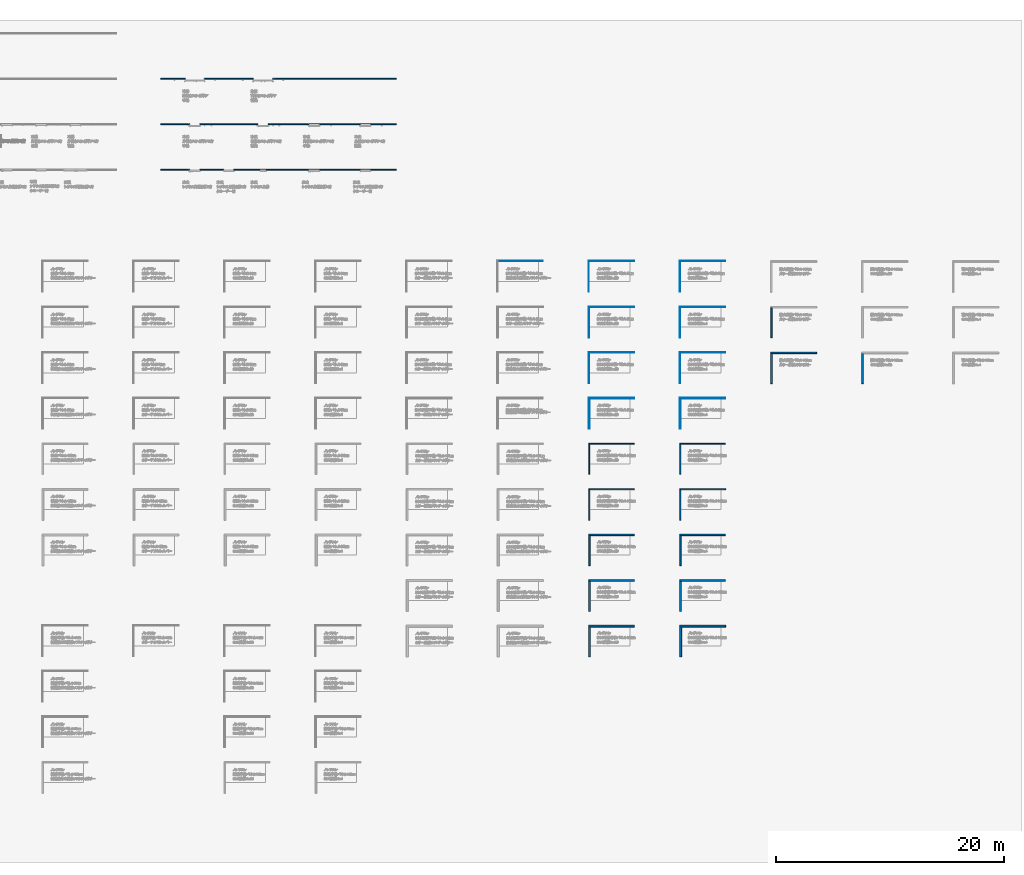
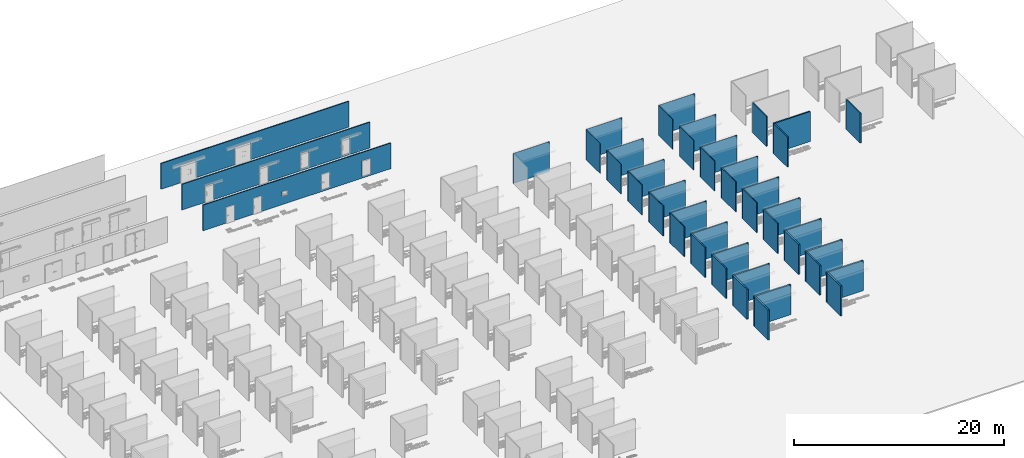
# One storey, part 4 of 16: 44 walls, 11 openings.
"""IFC2X3 building model written with IfcOpenShell, lengths in millimetres."""

from ifc_helpers import new_model, entity, si_unit, converted_unit, derived_unit, direction, frame, frame_2d, origin, place, context, subcontext, project, spatial, rectangle, extrude, material, layer, layer_set, layer_usage, type_object, element, save


model = new_model("IFC2X3")

# Units and contexts
model_context = context("Model", 3, precision=0.01, world=origin(), true_north=direction((6.123031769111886e-17, 1.0)))
body_context = subcontext(model_context, "Body", "Model", "MODEL_VIEW")
ifc_project = project(units=[si_unit("LENGTHUNIT", "METRE", prefix="MILLI"), si_unit("AREAUNIT", "SQUARE_METRE"), si_unit("VOLUMEUNIT", "CUBIC_METRE"), converted_unit("PLANEANGLEUNIT", "DEGREE", entity("IfcRatioMeasure", 0.017453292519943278), si_unit("PLANEANGLEUNIT", "RADIAN"), dimensions=[0, 0, 0, 0, 0, 0, 0]), si_unit("MASSUNIT", "GRAM", prefix="KILO"), derived_unit("MASSDENSITYUNIT", [(si_unit("MASSUNIT", "GRAM", prefix="KILO"), 1), (si_unit("LENGTHUNIT", "METRE"), -3)]), derived_unit("IONCONCENTRATIONUNIT", [(si_unit("MASSUNIT", "GRAM", prefix="KILO"), 1), (si_unit("LENGTHUNIT", "METRE"), -3)]), derived_unit("MOMENTOFINERTIAUNIT", [(si_unit("LENGTHUNIT", "METRE"), 4)]), si_unit("TIMEUNIT", "SECOND"), si_unit("FREQUENCYUNIT", "HERTZ"), si_unit("THERMODYNAMICTEMPERATUREUNIT", "DEGREE_CELSIUS"), derived_unit("THERMALTRANSMITTANCEUNIT", [(si_unit("MASSUNIT", "GRAM", prefix="KILO"), 1), (si_unit("THERMODYNAMICTEMPERATUREUNIT", "KELVIN"), -1), (si_unit("TIMEUNIT", "SECOND"), -3)]), derived_unit("THERMALCONDUCTANCEUNIT", [(si_unit("MASSUNIT", "GRAM", prefix="KILO"), 1), (si_unit("THERMODYNAMICTEMPERATUREUNIT", "KELVIN"), -1), (si_unit("TIMEUNIT", "SECOND"), -3), (si_unit("LENGTHUNIT", "METRE"), 1)]), derived_unit("VOLUMETRICFLOWRATEUNIT", [(si_unit("LENGTHUNIT", "METRE"), 3), (si_unit("TIMEUNIT", "SECOND"), -1)]), derived_unit("MASSFLOWRATEUNIT", [(si_unit("MASSUNIT", "GRAM", prefix="KILO"), 1), (si_unit("TIMEUNIT", "SECOND"), -1)]), derived_unit("ROTATIONALFREQUENCYUNIT", [(si_unit("TIMEUNIT", "SECOND"), -1)]), si_unit("ELECTRICCURRENTUNIT", "AMPERE"), si_unit("ELECTRICVOLTAGEUNIT", "VOLT"), si_unit("POWERUNIT", "WATT"), si_unit("FORCEUNIT", "NEWTON", prefix="KILO"), si_unit("ILLUMINANCEUNIT", "LUX"), si_unit("LUMINOUSFLUXUNIT", "LUMEN"), si_unit("LUMINOUSINTENSITYUNIT", "CANDELA"), derived_unit("USERDEFINED", [(si_unit("MASSUNIT", "GRAM", prefix="KILO"), -1), (si_unit("LENGTHUNIT", "METRE"), -2), (si_unit("TIMEUNIT", "SECOND"), 3), (si_unit("LUMINOUSFLUXUNIT", "LUMEN"), 1)]), derived_unit("USERDEFINED", [(si_unit("MASSUNIT", "GRAM", prefix="KILO"), 1), (si_unit("TIMEUNIT", "SECOND"), -3), (si_unit("LENGTHUNIT", "METRE"), 3), (si_unit("ELECTRICCURRENTUNIT", "AMPERE"), -2)]), derived_unit("SOUNDPOWERUNIT", [(si_unit("MASSUNIT", "GRAM", prefix="KILO"), 1), (si_unit("TIMEUNIT", "SECOND"), -3), (si_unit("LENGTHUNIT", "METRE"), 2)]), derived_unit("SOUNDPRESSUREUNIT", [(si_unit("MASSUNIT", "GRAM", prefix="KILO"), 1), (si_unit("LENGTHUNIT", "METRE"), -1), (si_unit("TIMEUNIT", "SECOND"), -2)]), derived_unit("LINEARVELOCITYUNIT", [(si_unit("LENGTHUNIT", "METRE"), 1), (si_unit("TIMEUNIT", "SECOND"), -1)]), si_unit("PRESSUREUNIT", "PASCAL"), derived_unit("USERDEFINED", [(si_unit("MASSUNIT", "GRAM", prefix="KILO"), 1), (si_unit("LENGTHUNIT", "METRE"), -2), (si_unit("TIMEUNIT", "SECOND"), -2)]), derived_unit("LINEARFORCEUNIT", [(si_unit("MASSUNIT", "GRAM", prefix="KILO"), 1), (si_unit("TIMEUNIT", "SECOND"), -2)]), derived_unit("PLANARFORCEUNIT", [(si_unit("MASSUNIT", "GRAM", prefix="KILO"), 1), (si_unit("LENGTHUNIT", "METRE"), -1), (si_unit("TIMEUNIT", "SECOND"), -2)]), derived_unit("SPECIFICHEATCAPACITYUNIT", [(si_unit("THERMODYNAMICTEMPERATUREUNIT", "KELVIN"), -1), (si_unit("LENGTHUNIT", "METRE"), 2), (si_unit("TIMEUNIT", "SECOND"), -2)]), derived_unit("HEATINGVALUEUNIT", [(si_unit("LENGTHUNIT", "METRE"), 2), (si_unit("TIMEUNIT", "SECOND"), -2)]), derived_unit("VAPORPERMEABILITYUNIT", [(si_unit("LENGTHUNIT", "METRE"), -1), (si_unit("TIMEUNIT", "SECOND"), 1)]), derived_unit("DYNAMICVISCOSITYUNIT", [(si_unit("MASSUNIT", "GRAM", prefix="KILO"), 1), (si_unit("TIMEUNIT", "SECOND"), -1), (si_unit("LENGTHUNIT", "METRE"), -1)]), derived_unit("THERMALEXPANSIONCOEFFICIENTUNIT", [(si_unit("THERMODYNAMICTEMPERATUREUNIT", "KELVIN"), -1)]), derived_unit("MODULUSOFELASTICITYUNIT", [(si_unit("MASSUNIT", "GRAM", prefix="KILO"), 1), (si_unit("LENGTHUNIT", "METRE"), -1), (si_unit("TIMEUNIT", "SECOND"), -2)]), derived_unit("ISOTHERMALMOISTURECAPACITYUNIT", [(si_unit("LENGTHUNIT", "METRE"), 3), (si_unit("MASSUNIT", "GRAM", prefix="KILO"), -1)]), derived_unit("MOISTUREDIFFUSIVITYUNIT", [(si_unit("TIMEUNIT", "SECOND"), -1), (si_unit("LENGTHUNIT", "METRE"), 2)])], contexts=[model_context])

# Site, building, storey
site_placement = place(None, origin())
site = spatial("IfcSite", under=ifc_project, at=site_placement, Name="Default", CompositionType="ELEMENT")
building_placement = place(site_placement, origin())
building = spatial("IfcBuilding", under=site, at=building_placement, CompositionType="ELEMENT")
storey_placement = place(building_placement, frame((0.0, 0.0, 500.0)))
storey = spatial("IfcBuildingStorey", under=building, at=storey_placement, Name="レベル 1", CompositionType="ELEMENT", Elevation=500.00000000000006)

# Wall, openings
ifc_material_1 = material(Name="g-p_硬質イソシアヌレートフォーム")
ifc_layer_1 = layer(ifc_material_1, 100.0)
ifc_layer_set_1 = layer_set([ifc_layer_1], Name="標準壁:g-p_不燃断熱パネル(フラット)t100")
ifc_layer_usage_1 = layer_usage(ifc_layer_set_1, "AXIS2", "NEGATIVE", 49.99999999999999)
wall_type_1 = type_object("IfcWallType", Name="標準壁:g-p_不燃断熱パネル(フラット)t100", PredefinedType="STANDARD", material=ifc_layer_set_1)
wall_1_placement = place(storey_placement, frame((2400.0, 20000.0, 0.0)))
wall_1 = element("IfcWallStandardCase", 1, at=wall_1_placement, inside=storey, type_object=wall_type_1, material=ifc_layer_usage_1, Name="標準壁:g-p_不燃断熱パネル(フラット)t100", ObjectType="標準壁:g-p_不燃断熱パネル(フラット)t100", context=body_context, shape_type="SweptSolid", body=[
    extrude(rectangle(XDim=20700.000000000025, YDim=100.00000000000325, at=frame_2d((10350.000000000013, 7.247535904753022e-13), x_axis=(-1.0, 0.0))), origin(), (0.0, 0.0, 1.0), 3000.000000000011),
])
opening_1_placement = place(wall_1_placement, frame((3451.00103000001, 50.0, 0.0)))
element("IfcOpeningElement", 2, at=opening_1_placement, cuts=wall_1, Name="冷凍_シリウス片開き扉3方:W870xH1855xt100:1", ObjectType="Opening", context=body_context, shape_type="SweptSolid", body=[
    extrude(rectangle(XDim=1871.0010299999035, YDim=902.0020599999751, at=frame_2d((935.5005149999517, 451.00102999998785), x_axis=(-1.0, 0.0))), frame((0.0, 0.0, 0.0), z_axis=(0.0, -1.0, 0.0), x_axis=(0.0, 0.0, 1.0)), (0.0, 0.0, 1.0), 99.99999999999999),
])
opening_2_placement = place(wall_1_placement, frame((6451.001030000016, 50.0, 0.0)))
element("IfcOpeningElement", 3, at=opening_2_placement, cuts=wall_1, Name="冷凍_シリウス片開き扉3方_クローザー付:W870xH1855xt100:1", ObjectType="Opening", context=body_context, shape_type="SweptSolid", body=[
    extrude(rectangle(XDim=1871.0010299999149, YDim=902.0020599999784, at=frame_2d((935.5005149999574, 451.0010299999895), x_axis=(-1.0, 0.0))), frame((0.0, 0.0, 0.0), z_axis=(0.0, -1.0, 0.0), x_axis=(0.0, 0.0, 1.0)), (0.0, 0.0, 1.0), 99.99999999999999),
])
opening_3_placement = place(wall_1_placement, frame((9266.001030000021, 50.0, 984.0)))
element("IfcOpeningElement", 4, at=opening_3_placement, cuts=wall_1, Name="冷凍_シリウス小扉:W500xH500xt100:1", ObjectType="Opening", context=body_context, shape_type="SweptSolid", body=[
    extrude(rectangle(XDim=532.0010299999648, YDim=532.0020599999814, at=frame_2d((266.00051499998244, 266.00102999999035), x_axis=(-1.0, 0.0))), frame((0.0, 0.0, 0.0), z_axis=(0.0, -1.0, 0.0), x_axis=(0.0, 0.0, 1.0)), (0.0, 0.0, 1.0), 99.99999999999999),
])
opening_4_placement = place(wall_1_placement, frame((18451.001030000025, 50.0, 184.0)))
element("IfcOpeningElement", 5, at=opening_4_placement, cuts=wall_1, Name="冷凍_シリウス片開き扉4方_クローザー付:W870xH1800xt100:1", ObjectType="Opening", context=body_context, shape_type="SweptSolid", body=[
    extrude(rectangle(XDim=1832.001030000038, YDim=902.0020599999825, at=frame_2d((916.000515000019, 451.00102999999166), x_axis=(-1.0, 0.0))), frame((0.0, 0.0, 0.0), z_axis=(0.0, -1.0, 0.0), x_axis=(0.0, 0.0, 1.0)), (0.0, 0.0, 1.0), 99.99999999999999),
])
opening_5_placement = place(wall_1_placement, frame((13951.001030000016, 50.0, 184.0)))
element("IfcOpeningElement", 6, at=opening_5_placement, cuts=wall_1, Name="冷凍_シリウス片開き扉4方:W870xH1800xt100:1", ObjectType="Opening", context=body_context, shape_type="SweptSolid", body=[
    extrude(rectangle(XDim=1832.00102999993, YDim=902.0020599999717, at=frame_2d((916.0005149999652, 451.0010299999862), x_axis=(-1.0, 0.0))), frame((0.0, 0.0, 0.0), z_axis=(0.0, -1.0, 0.0), x_axis=(0.0, 0.0, 1.0)), (0.0, 0.0, 1.0), 99.99999999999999),
])

wall_2_placement = place(storey_placement, frame((2400.0, 24000.0, 0.0)))
wall_2 = element("IfcWallStandardCase", 7, at=wall_2_placement, inside=storey, type_object=wall_type_1, material=ifc_layer_usage_1, Name="標準壁:g-p_不燃断熱パネル(フラット)t100", ObjectType="標準壁:g-p_不燃断熱パネル(フラット)t100", context=body_context, shape_type="SweptSolid", body=[
    extrude(rectangle(XDim=20700.00000000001, YDim=100.00000000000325, at=frame_2d((10350.000000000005, 7.247535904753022e-13), x_axis=(-1.0, 0.0))), origin(), (0.0, 0.0, 1.0), 3000.000000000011),
])
opening_6_placement = place(wall_2_placement, frame((3451.00103000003, 50.0, 0.0)))
element("IfcOpeningElement", 8, at=opening_6_placement, cuts=wall_2, Name="冷凍_片引きスライドドア3方_手動:W870xH1905xt100:1", ObjectType="Opening", context=body_context, shape_type="SweptSolid", body=[
    extrude(rectangle(XDim=1921.001029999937, YDim=902.0020599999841, at=frame_2d((960.5005149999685, 451.00102999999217), x_axis=(-1.0, 0.0))), frame((0.0, 0.0, 0.0), z_axis=(0.0, -1.0, 0.0), x_axis=(0.0, 0.0, 1.0)), (0.0, 0.0, 1.0), 99.99999999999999),
])
opening_7_placement = place(wall_2_placement, frame((9451.001030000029, 50.0, 0.0)))
element("IfcOpeningElement", 9, at=opening_7_placement, cuts=wall_2, Name="冷凍_片引きスライドドア3方_電動:W870xH1905xt100:1", ObjectType="Opening", context=body_context, shape_type="SweptSolid", body=[
    extrude(rectangle(XDim=1921.0010299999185, YDim=902.0020599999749, at=frame_2d((960.5005149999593, 451.0010299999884), x_axis=(-1.0, 0.0))), frame((0.0, 0.0, 0.0), z_axis=(0.0, -1.0, 0.0), x_axis=(0.0, 0.0, 1.0)), (0.0, 0.0, 1.0), 99.99999999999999),
])
opening_8_placement = place(wall_2_placement, frame((18451.00103000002, 50.0, 184.0)))
element("IfcOpeningElement", 10, at=opening_8_placement, cuts=wall_2, Name="冷凍_片引きスライドドア4方_電動:W870xH1800xt100:1", ObjectType="Opening", context=body_context, shape_type="SweptSolid", body=[
    extrude(rectangle(XDim=1832.0010299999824, YDim=902.0020599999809, at=frame_2d((916.0005149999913, 451.0010299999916), x_axis=(-1.0, 0.0))), frame((0.0, 0.0, 0.0), z_axis=(0.0, -1.0, 0.0), x_axis=(0.0, 0.0, 1.0)), (0.0, 0.0, 1.0), 99.99999999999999),
])
opening_9_placement = place(wall_2_placement, frame((13951.001030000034, 50.0, 184.0)))
element("IfcOpeningElement", 11, at=opening_9_placement, cuts=wall_2, Name="冷凍_片引きスライドドア4方_手動:W870xH1800xt100:1", ObjectType="Opening", context=body_context, shape_type="SweptSolid", body=[
    extrude(rectangle(XDim=1832.0010300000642, YDim=902.0020599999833, at=frame_2d((916.0005150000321, 451.00102999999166), x_axis=(-1.0, 0.0))), frame((0.0, 0.0, 0.0), z_axis=(0.0, -1.0, 0.0), x_axis=(0.0, 0.0, 1.0)), (0.0, 0.0, 1.0), 99.99999999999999),
])

wall_3_placement = place(storey_placement, frame((2400.0, 28000.0, 0.0)))
wall_3 = element("IfcWallStandardCase", 12, at=wall_3_placement, inside=storey, type_object=wall_type_1, material=ifc_layer_usage_1, Name="標準壁:g-p_不燃断熱パネル(フラット)t100", ObjectType="標準壁:g-p_不燃断熱パネル(フラット)t100", context=body_context, shape_type="SweptSolid", body=[
    extrude(rectangle(XDim=20700.000000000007, YDim=100.00000000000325, at=frame_2d((10350.000000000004, 7.247535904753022e-13), x_axis=(-1.0, 0.0))), origin(), (0.0, 0.0, 1.0), 3000.000000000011),
])
opening_10_placement = place(wall_3_placement, frame((3851.5010300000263, 50.0, 0.0)))
element("IfcOpeningElement", 13, at=opening_10_placement, cuts=wall_3, Name="冷凍_両引きスライドドア_手動:W1671xH2000xt100:1", ObjectType="Opening", context=body_context, shape_type="SweptSolid", body=[
    extrude(rectangle(XDim=2016.00102999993, YDim=1703.0020599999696, at=frame_2d((1008.0005149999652, 851.5010299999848), x_axis=(-1.0, 0.0))), frame((0.0, 0.0, 0.0), z_axis=(0.0, -1.0, 0.0), x_axis=(0.0, 0.0, 1.0)), (0.0, 0.0, 1.0), 99.99999999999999),
])
opening_11_placement = place(wall_3_placement, frame((9851.501030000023, 50.0, 0.0)))
element("IfcOpeningElement", 14, at=opening_11_placement, cuts=wall_3, Name="冷凍_両引きスライドドア_電動:W1671xH2000xt100:1", ObjectType="Opening", context=body_context, shape_type="SweptSolid", body=[
    extrude(rectangle(XDim=2016.0010299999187, YDim=1703.0020599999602, at=frame_2d((1008.0005149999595, 851.5010299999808), x_axis=(-1.0, 0.0))), frame((0.0, 0.0, 0.0), z_axis=(0.0, -1.0, 0.0), x_axis=(0.0, 0.0, 1.0)), (0.0, 0.0, 1.0), 99.99999999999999),
])

# Walls
ifc_material_2 = material(Name="g-p_フェノールフォーム")
ifc_layer_2 = layer(ifc_material_2, 37.0)
ifc_layer_set_2 = layer_set([ifc_layer_2], Name="標準壁:g-p_ECO不燃断熱パネル(フラット)t37")
ifc_layer_usage_2 = layer_usage(ifc_layer_set_2, "AXIS2", "NEGATIVE", 18.5)
wall_type_2 = type_object("IfcWallType", Name="標準壁:g-p_ECO不燃断熱パネル(フラット)t37", PredefinedType="STANDARD", material=ifc_layer_set_2)
wall_4_placement = place(storey_placement, frame((32000.0, 11981.499999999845, 0.0)))
element("IfcWallStandardCase", 15, at=wall_4_placement, inside=storey, type_object=wall_type_2, material=ifc_layer_usage_2, Name="標準壁:g-p_ECO不燃断熱パネル(フラット)t37", ObjectType="標準壁:g-p_ECO不燃断熱パネル(フラット)t37", context=body_context, shape_type="SweptSolid", body=[
    extrude(rectangle(XDim=3996.499999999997, YDim=37.00000000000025, at=frame_2d((1998.2499999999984, -5.329070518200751e-15), x_axis=(-1.0, 0.0))), origin(), (0.0, 0.0, 1.0), 3500.0000000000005),
])
wall_5_placement = place(storey_placement, frame((40000.0, 11981.499999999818, 0.0)))
element("IfcWallStandardCase", 16, at=wall_5_placement, inside=storey, type_object=wall_type_2, material=ifc_layer_usage_2, Name="標準壁:g-p_ECO不燃断熱パネル(フラット)t37", ObjectType="標準壁:g-p_ECO不燃断熱パネル(フラット)t37", context=body_context, shape_type="SweptSolid", body=[
    extrude(rectangle(XDim=3996.5000000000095, YDim=37.00000000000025, at=frame_2d((1998.2500000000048, -5.329070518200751e-15), x_axis=(-1.0, 0.0))), origin(), (0.0, 0.0, 1.0), 3500.0000000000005),
])
wall_6_placement = place(storey_placement, frame((40018.50000000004, 11963.0, 0.0), z_axis=(0.0, 0.0, 1.0), x_axis=(0.0, -1.0, 0.0)))
element("IfcWallStandardCase", 17, at=wall_6_placement, inside=storey, type_object=wall_type_2, material=ifc_layer_usage_2, Name="標準壁:g-p_ECO不燃断熱パネル(フラット)t37", ObjectType="標準壁:g-p_ECO不燃断熱パネル(フラット)t37", context=body_context, shape_type="SweptSolid", body=[
    extrude(rectangle(XDim=2681.499999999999, YDim=36.99999999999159, at=frame_2d((1340.7499999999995, 1.0462741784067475e-12), x_axis=(-1.0, 0.0))), origin(), (0.0, 0.0, 1.0), 3500.0000000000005),
])
wall_7_placement = place(storey_placement, frame((48000.0, 11981.499999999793, 0.0)))
element("IfcWallStandardCase", 18, at=wall_7_placement, inside=storey, type_object=wall_type_2, material=ifc_layer_usage_2, Name="標準壁:g-p_ECO不燃断熱パネル(フラット)t37", ObjectType="標準壁:g-p_ECO不燃断熱パネル(フラット)t37", context=body_context, shape_type="SweptSolid", body=[
    extrude(rectangle(XDim=3996.5000000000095, YDim=37.00000000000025, at=frame_2d((1998.2500000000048, -5.329070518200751e-15), x_axis=(-1.0, 0.0))), origin(), (0.0, 0.0, 1.0), 3500.0000000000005),
])
wall_8_placement = place(storey_placement, frame((48018.50000000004, 11963.0, 0.0), z_axis=(0.0, 0.0, 1.0), x_axis=(0.0, -1.0, 0.0)))
element("IfcWallStandardCase", 19, at=wall_8_placement, inside=storey, type_object=wall_type_2, material=ifc_layer_usage_2, Name="標準壁:g-p_ECO不燃断熱パネル(フラット)t37", ObjectType="標準壁:g-p_ECO不燃断熱パネル(フラット)t37", context=body_context, shape_type="SweptSolid", body=[
    extrude(rectangle(XDim=2681.499999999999, YDim=36.99999999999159, at=frame_2d((1340.7499999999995, 1.0462741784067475e-12), x_axis=(-1.0, 0.0))), origin(), (0.0, 0.0, 1.0), 3500.0000000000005),
])
ifc_layer_3 = layer(ifc_material_2, 52.00000000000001)
ifc_layer_set_3 = layer_set([ifc_layer_3], Name="標準壁:g-p_ECO不燃断熱パネル(フラット)t52")
ifc_layer_usage_3 = layer_usage(ifc_layer_set_3, "AXIS2", "NEGATIVE", 26.000000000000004)
wall_type_3 = type_object("IfcWallType", Name="標準壁:g-p_ECO不燃断熱パネル(フラット)t52", PredefinedType="STANDARD", material=ifc_layer_set_3)
wall_9_placement = place(storey_placement, frame((40000.0, 7974.0, 0.0)))
element("IfcWallStandardCase", 20, at=wall_9_placement, inside=storey, type_object=wall_type_3, material=ifc_layer_usage_3, Name="標準壁:g-p_ECO不燃断熱パネル(フラット)t52", ObjectType="標準壁:g-p_ECO不燃断熱パネル(フラット)t52", context=body_context, shape_type="SweptSolid", body=[
    extrude(rectangle(XDim=4000.9999999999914, YDim=51.999999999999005, at=frame_2d((2000.4999999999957, 1.7763568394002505e-15), x_axis=(-1.0, 0.0))), origin(), (0.0, 0.0, 1.0), 3500.0000000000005),
])
wall_10_placement = place(storey_placement, frame((40026.0, 7948.0, 0.0), z_axis=(0.0, 0.0, 1.0), x_axis=(0.0, -1.0, 0.0)))
element("IfcWallStandardCase", 21, at=wall_10_placement, inside=storey, type_object=wall_type_3, material=ifc_layer_usage_3, Name="標準壁:g-p_ECO不燃断熱パネル(フラット)t52", ObjectType="標準壁:g-p_ECO不燃断熱パネル(フラット)t52", context=body_context, shape_type="SweptSolid", body=[
    extrude(rectangle(XDim=2673.9999999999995, YDim=52.00000000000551, at=frame_2d((1336.9999999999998, 1.0302869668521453e-12), x_axis=(-1.0, 0.0))), origin(), (0.0, 0.0, 1.0), 3500.0000000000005),
])
wall_11_placement = place(storey_placement, frame((48000.0, 7974.0, 0.0)))
element("IfcWallStandardCase", 22, at=wall_11_placement, inside=storey, type_object=wall_type_3, material=ifc_layer_usage_3, Name="標準壁:g-p_ECO不燃断熱パネル(フラット)t52", ObjectType="標準壁:g-p_ECO不燃断熱パネル(フラット)t52", context=body_context, shape_type="SweptSolid", body=[
    extrude(rectangle(XDim=4000.9999999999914, YDim=51.999999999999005, at=frame_2d((2000.4999999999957, 1.7763568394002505e-15), x_axis=(-1.0, 0.0))), origin(), (0.0, 0.0, 1.0), 3500.0000000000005),
])
wall_12_placement = place(storey_placement, frame((48026.0, 7948.0, 0.0), z_axis=(0.0, 0.0, 1.0), x_axis=(0.0, -1.0, 0.0)))
element("IfcWallStandardCase", 23, at=wall_12_placement, inside=storey, type_object=wall_type_3, material=ifc_layer_usage_3, Name="標準壁:g-p_ECO不燃断熱パネル(フラット)t52", ObjectType="標準壁:g-p_ECO不燃断熱パネル(フラット)t52", context=body_context, shape_type="SweptSolid", body=[
    extrude(rectangle(XDim=2673.9999999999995, YDim=52.00000000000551, at=frame_2d((1336.9999999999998, 1.0302869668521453e-12), x_axis=(-1.0, 0.0))), origin(), (0.0, 0.0, 1.0), 3500.0000000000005),
])
ifc_layer_4 = layer(ifc_material_2, 68.0)
ifc_layer_set_4 = layer_set([ifc_layer_4], Name="標準壁:g-p_ECO不燃断熱パネル(フラット)t68")
ifc_layer_usage_4 = layer_usage(ifc_layer_set_4, "AXIS2", "NEGATIVE", 34.0)
wall_type_4 = type_object("IfcWallType", Name="標準壁:g-p_ECO不燃断熱パネル(フラット)t68", PredefinedType="STANDARD", material=ifc_layer_set_4)
wall_13_placement = place(storey_placement, frame((40000.0, 3966.0, 0.0)))
element("IfcWallStandardCase", 24, at=wall_13_placement, inside=storey, type_object=wall_type_4, material=ifc_layer_usage_4, Name="標準壁:g-p_ECO不燃断熱パネル(フラット)t68", ObjectType="標準壁:g-p_ECO不燃断熱パネル(フラット)t68", context=body_context, shape_type="SweptSolid", body=[
    extrude(rectangle(XDim=3995.50000000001, YDim=67.9999999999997, at=frame_2d((1997.750000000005, -7.105427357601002e-15), x_axis=(-1.0, 0.0))), origin(), (0.0, 0.0, 1.0), 3500.0000000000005),
])
wall_14_placement = place(storey_placement, frame((40034.0, 3932.0, 0.0), z_axis=(0.0, 0.0, 1.0), x_axis=(0.0, -1.0, 0.0)))
element("IfcWallStandardCase", 25, at=wall_14_placement, inside=storey, type_object=wall_type_4, material=ifc_layer_usage_4, Name="標準壁:g-p_ECO不燃断熱パネル(フラット)t68", ObjectType="標準壁:g-p_ECO不燃断熱パネル(フラット)t68", context=body_context, shape_type="SweptSolid", body=[
    extrude(rectangle(XDim=2665.999999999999, YDim=68.00000000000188, at=frame_2d((1332.9999999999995, 1.0160761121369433e-12), x_axis=(-1.0, 0.0))), origin(), (0.0, 0.0, 1.0), 3500.0000000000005),
])
wall_15_placement = place(storey_placement, frame((48000.0, 3966.0, 0.0)))
element("IfcWallStandardCase", 26, at=wall_15_placement, inside=storey, type_object=wall_type_4, material=ifc_layer_usage_4, Name="標準壁:g-p_ECO不燃断熱パネル(フラット)t68", ObjectType="標準壁:g-p_ECO不燃断熱パネル(フラット)t68", context=body_context, shape_type="SweptSolid", body=[
    extrude(rectangle(XDim=3995.50000000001, YDim=67.9999999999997, at=frame_2d((1997.750000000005, -7.105427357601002e-15), x_axis=(-1.0, 0.0))), origin(), (0.0, 0.0, 1.0), 3500.0000000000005),
])
wall_16_placement = place(storey_placement, frame((48034.0, 3932.0, 0.0), z_axis=(0.0, 0.0, 1.0), x_axis=(0.0, -1.0, 0.0)))
element("IfcWallStandardCase", 27, at=wall_16_placement, inside=storey, type_object=wall_type_4, material=ifc_layer_usage_4, Name="標準壁:g-p_ECO不燃断熱パネル(フラット)t68", ObjectType="標準壁:g-p_ECO不燃断熱パネル(フラット)t68", context=body_context, shape_type="SweptSolid", body=[
    extrude(rectangle(XDim=2665.999999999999, YDim=68.00000000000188, at=frame_2d((1332.9999999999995, 1.0160761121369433e-12), x_axis=(-1.0, 0.0))), origin(), (0.0, 0.0, 1.0), 3500.0000000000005),
])
ifc_layer_5 = layer(ifc_material_2, 87.0)
ifc_layer_set_5 = layer_set([ifc_layer_5], Name="標準壁:g-p_ECO不燃断熱パネル(フラット)t87")
ifc_layer_usage_5 = layer_usage(ifc_layer_set_5, "AXIS2", "NEGATIVE", 43.5)
wall_type_5 = type_object("IfcWallType", Name="標準壁:g-p_ECO不燃断熱パネル(フラット)t87", PredefinedType="STANDARD", material=ifc_layer_set_5)
wall_17_placement = place(storey_placement, frame((40000.0, -43.500000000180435, 0.0)))
element("IfcWallStandardCase", 28, at=wall_17_placement, inside=storey, type_object=wall_type_5, material=ifc_layer_usage_5, Name="標準壁:g-p_ECO不燃断熱パネル(フラット)t87", ObjectType="標準壁:g-p_ECO不燃断熱パネル(フラット)t87", context=body_context, shape_type="SweptSolid", body=[
    extrude(rectangle(XDim=3993.499999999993, YDim=87.0, at=frame_2d((1996.7499999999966, -7.105427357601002e-15), x_axis=(-1.0, 0.0))), origin(), (0.0, 0.0, 1.0), 3500.0000000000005),
])
wall_18_placement = place(storey_placement, frame((40043.50000000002, -87.0, 0.0), z_axis=(0.0, 0.0, 1.0), x_axis=(0.0, -1.0, 0.0)))
element("IfcWallStandardCase", 29, at=wall_18_placement, inside=storey, type_object=wall_type_5, material=ifc_layer_usage_5, Name="標準壁:g-p_ECO不燃断熱パネル(フラット)t87", ObjectType="標準壁:g-p_ECO不燃断熱パネル(フラット)t87", context=body_context, shape_type="SweptSolid", body=[
    extrude(rectangle(XDim=2656.5, YDim=86.99999999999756, at=frame_2d((1328.25, 9.947598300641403e-13), x_axis=(-1.0, 0.0))), origin(), (0.0, 0.0, 1.0), 3500.0000000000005),
])
wall_19_placement = place(storey_placement, frame((48000.0, -43.50000000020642, 0.0)))
element("IfcWallStandardCase", 30, at=wall_19_placement, inside=storey, type_object=wall_type_5, material=ifc_layer_usage_5, Name="標準壁:g-p_ECO不燃断熱パネル(フラット)t87", ObjectType="標準壁:g-p_ECO不燃断熱パネル(フラット)t87", context=body_context, shape_type="SweptSolid", body=[
    extrude(rectangle(XDim=3993.499999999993, YDim=87.0, at=frame_2d((1996.7499999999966, -7.105427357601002e-15), x_axis=(-1.0, 0.0))), origin(), (0.0, 0.0, 1.0), 3500.0000000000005),
])
wall_20_placement = place(storey_placement, frame((48043.50000000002, -87.0, 0.0), z_axis=(0.0, 0.0, 1.0), x_axis=(0.0, -1.0, 0.0)))
element("IfcWallStandardCase", 31, at=wall_20_placement, inside=storey, type_object=wall_type_5, material=ifc_layer_usage_5, Name="標準壁:g-p_ECO不燃断熱パネル(フラット)t87", ObjectType="標準壁:g-p_ECO不燃断熱パネル(フラット)t87", context=body_context, shape_type="SweptSolid", body=[
    extrude(rectangle(XDim=2656.5, YDim=86.99999999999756, at=frame_2d((1328.25, 9.947598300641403e-13), x_axis=(-1.0, 0.0))), origin(), (0.0, 0.0, 1.0), 3500.0000000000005),
])
ifc_layer_6 = layer(ifc_material_2, 102.00000000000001)
ifc_layer_set_6 = layer_set([ifc_layer_6], Name="標準壁:g-p_ECO不燃断熱パネル(フラット)t102")
ifc_layer_usage_6 = layer_usage(ifc_layer_set_6, "AXIS2", "NEGATIVE", 51.00000000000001)
wall_type_6 = type_object("IfcWallType", Name="標準壁:g-p_ECO不燃断熱パネル(フラット)t102", PredefinedType="STANDARD", material=ifc_layer_set_6)
wall_21_placement = place(storey_placement, frame((40000.0, -4051.0, 0.0)))
element("IfcWallStandardCase", 32, at=wall_21_placement, inside=storey, type_object=wall_type_6, material=ifc_layer_usage_6, Name="標準壁:g-p_ECO不燃断熱パネル(フラット)t102", ObjectType="標準壁:g-p_ECO不燃断熱パネル(フラット)t102", context=body_context, shape_type="SweptSolid", body=[
    extrude(rectangle(XDim=4029.0000000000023, YDim=101.99999999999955, at=frame_2d((2014.5000000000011, 4.973799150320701e-14), x_axis=(-1.0, 0.0))), origin(), (0.0, 0.0, 1.0), 3500.0000000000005),
])
wall_22_placement = place(storey_placement, frame((40051.0, -4102.0, 0.0), z_axis=(0.0, 0.0, 1.0), x_axis=(0.0, -1.0, 0.0)))
element("IfcWallStandardCase", 33, at=wall_22_placement, inside=storey, type_object=wall_type_6, material=ifc_layer_usage_6, Name="標準壁:g-p_ECO不燃断熱パネル(フラット)t102", ObjectType="標準壁:g-p_ECO不燃断熱パネル(フラット)t102", context=body_context, shape_type="SweptSolid", body=[
    extrude(rectangle(XDim=2648.9999999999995, YDim=101.99999999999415, at=frame_2d((1324.4999999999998, 9.841016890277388e-13), x_axis=(-1.0, 0.0))), origin(), (0.0, 0.0, 1.0), 3500.0000000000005),
])
wall_23_placement = place(storey_placement, frame((48000.0, -4051.0, 0.0)))
element("IfcWallStandardCase", 34, at=wall_23_placement, inside=storey, type_object=wall_type_6, material=ifc_layer_usage_6, Name="標準壁:g-p_ECO不燃断熱パネル(フラット)t102", ObjectType="標準壁:g-p_ECO不燃断熱パネル(フラット)t102", context=body_context, shape_type="SweptSolid", body=[
    extrude(rectangle(XDim=4029.0000000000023, YDim=101.99999999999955, at=frame_2d((2014.5000000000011, 4.973799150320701e-14), x_axis=(-1.0, 0.0))), origin(), (0.0, 0.0, 1.0), 3500.0000000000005),
])
wall_24_placement = place(storey_placement, frame((48051.0, -4102.0, 0.0), z_axis=(0.0, 0.0, 1.0), x_axis=(0.0, -1.0, 0.0)))
element("IfcWallStandardCase", 35, at=wall_24_placement, inside=storey, type_object=wall_type_6, material=ifc_layer_usage_6, Name="標準壁:g-p_ECO不燃断熱パネル(フラット)t102", ObjectType="標準壁:g-p_ECO不燃断熱パネル(フラット)t102", context=body_context, shape_type="SweptSolid", body=[
    extrude(rectangle(XDim=2648.9999999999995, YDim=101.99999999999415, at=frame_2d((1324.4999999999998, 9.841016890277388e-13), x_axis=(-1.0, 0.0))), origin(), (0.0, 0.0, 1.0), 3500.0000000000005),
])
ifc_layer_7 = layer(ifc_material_2, 118.00000000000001)
ifc_layer_set_7 = layer_set([ifc_layer_7], Name="標準壁:g-p_ECO不燃断熱パネル(フラット)t118")
ifc_layer_usage_7 = layer_usage(ifc_layer_set_7, "AXIS2", "NEGATIVE", 58.99999999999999)
wall_type_7 = type_object("IfcWallType", Name="標準壁:g-p_ECO不燃断熱パネル(フラット)t118", PredefinedType="STANDARD", material=ifc_layer_set_7)
wall_25_placement = place(storey_placement, frame((40000.0, -8059.0, 0.0)))
element("IfcWallStandardCase", 36, at=wall_25_placement, inside=storey, type_object=wall_type_7, material=ifc_layer_usage_7, Name="標準壁:g-p_ECO不燃断熱パネル(フラット)t118", ObjectType="標準壁:g-p_ECO不燃断熱パネル(フラット)t118", context=body_context, shape_type="SweptSolid", body=[
    extrude(rectangle(XDim=4033.9999999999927, YDim=117.99999999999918, at=frame_2d((2016.9999999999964, 5.684341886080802e-14), x_axis=(-1.0, 0.0))), origin(), (0.0, 0.0, 1.0), 3500.0000000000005),
])
wall_26_placement = place(storey_placement, frame((40059.0, -8118.0, 0.0), z_axis=(0.0, 0.0, 1.0), x_axis=(0.0, -1.0, 0.0)))
element("IfcWallStandardCase", 37, at=wall_26_placement, inside=storey, type_object=wall_type_7, material=ifc_layer_usage_7, Name="標準壁:g-p_ECO不燃断熱パネル(フラット)t118", ObjectType="標準壁:g-p_ECO不燃断熱パネル(フラット)t118", context=body_context, shape_type="SweptSolid", body=[
    extrude(rectangle(XDim=2640.999999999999, YDim=118.00000000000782, at=frame_2d((1320.4999999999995, 9.627854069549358e-13), x_axis=(-1.0, 0.0))), origin(), (0.0, 0.0, 1.0), 3500.0000000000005),
])
wall_27_placement = place(storey_placement, frame((48000.0, -8059.0, 0.0)))
element("IfcWallStandardCase", 38, at=wall_27_placement, inside=storey, type_object=wall_type_7, material=ifc_layer_usage_7, Name="標準壁:g-p_ECO不燃断熱パネル(フラット)t118", ObjectType="標準壁:g-p_ECO不燃断熱パネル(フラット)t118", context=body_context, shape_type="SweptSolid", body=[
    extrude(rectangle(XDim=4033.9999999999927, YDim=117.99999999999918, at=frame_2d((2016.9999999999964, 5.684341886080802e-14), x_axis=(-1.0, 0.0))), origin(), (0.0, 0.0, 1.0), 3500.0000000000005),
])
wall_28_placement = place(storey_placement, frame((48059.0, -8118.0, 0.0), z_axis=(0.0, 0.0, 1.0), x_axis=(0.0, -1.0, 0.0)))
element("IfcWallStandardCase", 39, at=wall_28_placement, inside=storey, type_object=wall_type_7, material=ifc_layer_usage_7, Name="標準壁:g-p_ECO不燃断熱パネル(フラット)t118", ObjectType="標準壁:g-p_ECO不燃断熱パネル(フラット)t118", context=body_context, shape_type="SweptSolid", body=[
    extrude(rectangle(XDim=2640.999999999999, YDim=118.00000000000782, at=frame_2d((1320.4999999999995, 9.627854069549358e-13), x_axis=(-1.0, 0.0))), origin(), (0.0, 0.0, 1.0), 3500.0000000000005),
])
ifc_layer_8 = layer(ifc_material_2, 134.0)
ifc_layer_set_8 = layer_set([ifc_layer_8], Name="標準壁:g-p_ECO不燃断熱パネル(フラット)t134")
ifc_layer_usage_8 = layer_usage(ifc_layer_set_8, "AXIS2", "NEGATIVE", 67.0)
wall_type_8 = type_object("IfcWallType", Name="標準壁:g-p_ECO不燃断熱パネル(フラット)t134", PredefinedType="STANDARD", material=ifc_layer_set_8)
wall_29_placement = place(storey_placement, frame((40000.0, -12067.0, 0.0)))
element("IfcWallStandardCase", 40, at=wall_29_placement, inside=storey, type_object=wall_type_8, material=ifc_layer_usage_8, Name="標準壁:g-p_ECO不燃断熱パネル(フラット)t134", ObjectType="標準壁:g-p_ECO不燃断熱パネル(フラット)t134", context=body_context, shape_type="SweptSolid", body=[
    extrude(rectangle(XDim=4028.500000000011, YDim=133.99999999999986, at=frame_2d((2014.2500000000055, 4.973799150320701e-14), x_axis=(-1.0, 0.0))), origin(), (0.0, 0.0, 1.0), 3500.0000000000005),
])
wall_30_placement = place(storey_placement, frame((40067.0, -12134.0, 0.0), z_axis=(0.0, 0.0, 1.0), x_axis=(0.0, -1.0, 0.0)))
element("IfcWallStandardCase", 41, at=wall_30_placement, inside=storey, type_object=wall_type_8, material=ifc_layer_usage_8, Name="標準壁:g-p_ECO不燃断熱パネル(フラット)t134", ObjectType="標準壁:g-p_ECO不燃断熱パネル(フラット)t134", context=body_context, shape_type="SweptSolid", body=[
    extrude(rectangle(XDim=2632.9999999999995, YDim=134.0000000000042, at=frame_2d((1316.4999999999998, 9.521272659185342e-13), x_axis=(-1.0, 0.0))), origin(), (0.0, 0.0, 1.0), 3500.0000000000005),
])
wall_31_placement = place(storey_placement, frame((48000.0, -12067.0, 0.0)))
element("IfcWallStandardCase", 42, at=wall_31_placement, inside=storey, type_object=wall_type_8, material=ifc_layer_usage_8, Name="標準壁:g-p_ECO不燃断熱パネル(フラット)t134", ObjectType="標準壁:g-p_ECO不燃断熱パネル(フラット)t134", context=body_context, shape_type="SweptSolid", body=[
    extrude(rectangle(XDim=4028.500000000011, YDim=133.99999999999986, at=frame_2d((2014.2500000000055, 4.973799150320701e-14), x_axis=(-1.0, 0.0))), origin(), (0.0, 0.0, 1.0), 3500.0000000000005),
])
wall_32_placement = place(storey_placement, frame((48067.0, -12134.0, 0.0), z_axis=(0.0, 0.0, 1.0), x_axis=(0.0, -1.0, 0.0)))
element("IfcWallStandardCase", 43, at=wall_32_placement, inside=storey, type_object=wall_type_8, material=ifc_layer_usage_8, Name="標準壁:g-p_ECO不燃断熱パネル(フラット)t134", ObjectType="標準壁:g-p_ECO不燃断熱パネル(フラット)t134", context=body_context, shape_type="SweptSolid", body=[
    extrude(rectangle(XDim=2632.9999999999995, YDim=134.0000000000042, at=frame_2d((1316.4999999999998, 9.521272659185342e-13), x_axis=(-1.0, 0.0))), origin(), (0.0, 0.0, 1.0), 3500.0000000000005),
])
ifc_layer_9 = layer(ifc_material_2, 152.0)
ifc_layer_set_9 = layer_set([ifc_layer_9], Name="標準壁:g-p_ECO不燃断熱パネル(フラット)t152")
ifc_layer_usage_9 = layer_usage(ifc_layer_set_9, "AXIS2", "NEGATIVE", 75.99999999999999)
wall_type_9 = type_object("IfcWallType", Name="標準壁:g-p_ECO不燃断熱パネル(フラット)t152", PredefinedType="STANDARD", material=ifc_layer_set_9)
wall_33_placement = place(storey_placement, frame((40000.0, -16076.0, 0.0)))
element("IfcWallStandardCase", 44, at=wall_33_placement, inside=storey, type_object=wall_type_9, material=ifc_layer_usage_9, Name="標準壁:g-p_ECO不燃断熱パネル(フラット)t152", ObjectType="標準壁:g-p_ECO不燃断熱パネル(フラット)t152", context=body_context, shape_type="SweptSolid", body=[
    extrude(rectangle(XDim=4026.0000000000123, YDim=152.00000000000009, at=frame_2d((2013.0000000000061, 4.263256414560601e-14), x_axis=(-1.0, 0.0))), origin(), (0.0, 0.0, 1.0), 3500.0000000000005),
])
wall_34_placement = place(storey_placement, frame((40076.0, -16152.0, 0.0), z_axis=(0.0, 0.0, 1.0), x_axis=(0.0, -1.0, 0.0)))
element("IfcWallStandardCase", 45, at=wall_34_placement, inside=storey, type_object=wall_type_9, material=ifc_layer_usage_9, Name="標準壁:g-p_ECO不燃断熱パネル(フラット)t152", ObjectType="標準壁:g-p_ECO不燃断熱パネル(フラット)t152", context=body_context, shape_type="SweptSolid", body=[
    extrude(rectangle(XDim=2623.999999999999, YDim=152.00000000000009, at=frame_2d((1311.9999999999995, 9.308109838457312e-13), x_axis=(-1.0, 0.0))), origin(), (0.0, 0.0, 1.0), 3500.0000000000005),
])
wall_35_placement = place(storey_placement, frame((48000.0, -16076.0, 0.0)))
element("IfcWallStandardCase", 46, at=wall_35_placement, inside=storey, type_object=wall_type_9, material=ifc_layer_usage_9, Name="標準壁:g-p_ECO不燃断熱パネル(フラット)t152", ObjectType="標準壁:g-p_ECO不燃断熱パネル(フラット)t152", context=body_context, shape_type="SweptSolid", body=[
    extrude(rectangle(XDim=4026.0000000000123, YDim=152.00000000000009, at=frame_2d((2013.0000000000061, 4.263256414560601e-14), x_axis=(-1.0, 0.0))), origin(), (0.0, 0.0, 1.0), 3500.0000000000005),
])
wall_36_placement = place(storey_placement, frame((48076.0, -16152.0, 0.0), z_axis=(0.0, 0.0, 1.0), x_axis=(0.0, -1.0, 0.0)))
element("IfcWallStandardCase", 47, at=wall_36_placement, inside=storey, type_object=wall_type_9, material=ifc_layer_usage_9, Name="標準壁:g-p_ECO不燃断熱パネル(フラット)t152", ObjectType="標準壁:g-p_ECO不燃断熱パネル(フラット)t152", context=body_context, shape_type="SweptSolid", body=[
    extrude(rectangle(XDim=2623.999999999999, YDim=152.00000000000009, at=frame_2d((1311.9999999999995, 9.308109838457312e-13), x_axis=(-1.0, 0.0))), origin(), (0.0, 0.0, 1.0), 3500.0000000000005),
])
ifc_layer_10 = layer(ifc_material_2, 168.0)
ifc_layer_set_10 = layer_set([ifc_layer_10], Name="標準壁:g-p_ECO不燃断熱パネル(フラット)t168")
ifc_layer_usage_10 = layer_usage(ifc_layer_set_10, "AXIS2", "NEGATIVE", 84.0)
wall_type_10 = type_object("IfcWallType", Name="標準壁:g-p_ECO不燃断熱パネル(フラット)t168", PredefinedType="STANDARD", material=ifc_layer_set_10)
wall_37_placement = place(storey_placement, frame((40000.0, -20084.0, 0.0)))
element("IfcWallStandardCase", 48, at=wall_37_placement, inside=storey, type_object=wall_type_10, material=ifc_layer_usage_10, Name="標準壁:g-p_ECO不燃断熱パネル(フラット)t168", ObjectType="標準壁:g-p_ECO不燃断熱パネル(フラット)t168", context=body_context, shape_type="SweptSolid", body=[
    extrude(rectangle(XDim=4034.000000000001, YDim=167.99999999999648, at=frame_2d((2017.0000000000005, 6.394884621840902e-14), x_axis=(-1.0, 0.0))), origin(), (0.0, 0.0, 1.0), 3500.0000000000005),
])
wall_38_placement = place(storey_placement, frame((40084.0, -20168.0, 0.0), z_axis=(0.0, 0.0, 1.0), x_axis=(0.0, -1.0, 0.0)))
element("IfcWallStandardCase", 49, at=wall_38_placement, inside=storey, type_object=wall_type_10, material=ifc_layer_usage_10, Name="標準壁:g-p_ECO不燃断熱パネル(フラット)t168", ObjectType="標準壁:g-p_ECO不燃断熱パネル(フラット)t168", context=body_context, shape_type="SweptSolid", body=[
    extrude(rectangle(XDim=2615.9999999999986, YDim=167.99999999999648, at=frame_2d((1307.9999999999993, 9.166001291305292e-13), x_axis=(-1.0, 0.0))), origin(), (0.0, 0.0, 1.0), 3500.0000000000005),
])
wall_39_placement = place(storey_placement, frame((48000.0, -20084.0, 0.0)))
element("IfcWallStandardCase", 50, at=wall_39_placement, inside=storey, type_object=wall_type_10, material=ifc_layer_usage_10, Name="標準壁:g-p_ECO不燃断熱パネル(フラット)t168", ObjectType="標準壁:g-p_ECO不燃断熱パネル(フラット)t168", context=body_context, shape_type="SweptSolid", body=[
    extrude(rectangle(XDim=4034.000000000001, YDim=167.99999999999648, at=frame_2d((2017.0000000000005, 6.394884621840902e-14), x_axis=(-1.0, 0.0))), origin(), (0.0, 0.0, 1.0), 3500.0000000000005),
])
wall_40_placement = place(storey_placement, frame((48084.0, -20168.0, 0.0), z_axis=(0.0, 0.0, 1.0), x_axis=(0.0, -1.0, 0.0)))
element("IfcWallStandardCase", 51, at=wall_40_placement, inside=storey, type_object=wall_type_10, material=ifc_layer_usage_10, Name="標準壁:g-p_ECO不燃断熱パネル(フラット)t168", ObjectType="標準壁:g-p_ECO不燃断熱パネル(フラット)t168", context=body_context, shape_type="SweptSolid", body=[
    extrude(rectangle(XDim=2615.9999999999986, YDim=167.99999999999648, at=frame_2d((1307.9999999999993, 9.166001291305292e-13), x_axis=(-1.0, 0.0))), origin(), (0.0, 0.0, 1.0), 3500.0000000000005),
])
ifc_material_3 = material(Name="g-p_ロックウール")
ifc_layer_11 = layer(ifc_material_3, 125.00000000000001)
ifc_layer_set_11 = layer_set([ifc_layer_11], Name="標準壁:g-p_耐火断熱パネル(フラット)t125")
ifc_layer_usage_11 = layer_usage(ifc_layer_set_11, "AXIS2", "NEGATIVE", 62.49999999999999)
wall_type_11 = type_object("IfcWallType", Name="標準壁:g-p_耐火断熱パネル(フラット)t125", PredefinedType="STANDARD", material=ifc_layer_set_11)
wall_41_placement = place(storey_placement, frame((56062.50000000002, 7875.0, 0.0), z_axis=(0.0, 0.0, 1.0), x_axis=(0.0, -1.0, 0.0)))
element("IfcWallStandardCase", 52, at=wall_41_placement, inside=storey, type_object=wall_type_11, material=ifc_layer_usage_11, Name="標準壁:g-p_耐火断熱パネル(フラット)t125", ObjectType="標準壁:g-p_耐火断熱パネル(フラット)t125", context=body_context, shape_type="SweptSolid", body=[
    extrude(rectangle(XDim=2637.500000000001, YDim=125.00000000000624, at=frame_2d((1318.7500000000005, 9.556799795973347e-13), x_axis=(-1.0, 0.0))), origin(), (0.0, 0.0, 1.0), 3500.0000000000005),
])
ifc_layer_12 = layer(ifc_material_3, 150.0)
ifc_layer_set_12 = layer_set([ifc_layer_12], Name="標準壁:g-p_耐火断熱パネル(フラット)t150")
ifc_layer_usage_12 = layer_usage(ifc_layer_set_12, "AXIS2", "NEGATIVE", 75.0)
wall_type_12 = type_object("IfcWallType", Name="標準壁:g-p_耐火断熱パネル(フラット)t150", PredefinedType="STANDARD", material=ifc_layer_set_12)
wall_42_placement = place(storey_placement, frame((56000.0, 3925.0, 0.0)))
element("IfcWallStandardCase", 53, at=wall_42_placement, inside=storey, type_object=wall_type_12, material=ifc_layer_usage_12, Name="標準壁:g-p_耐火断熱パネル(フラット)t150", ObjectType="標準壁:g-p_耐火断熱パネル(フラット)t150", context=body_context, shape_type="SweptSolid", body=[
    extrude(rectangle(XDim=4043.9999999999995, YDim=149.99999999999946, at=frame_2d((2021.9999999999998, 7.105427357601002e-14), x_axis=(-1.0, 0.0))), origin(), (0.0, 0.0, 1.0), 3500.0000000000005),
])
for number, where, z_axis, x_axis in (
    (54, (56075.0, 3850.0, 0.0), (0.0, 0.0, 1.0), (0.0, -1.0, 0.0)),
    (55, (64075.0, 3850.0, 0.0), (0.0, 0.0, 1.0), (0.0, -1.0, 0.0)),
):
    element("IfcWallStandardCase", number, at=place(storey_placement, frame(where, z_axis=z_axis, x_axis=x_axis)), inside=storey, type_object=wall_type_12, material=ifc_layer_usage_12, Name="標準壁:g-p_耐火断熱パネル(フラット)t150", ObjectType="標準壁:g-p_耐火断熱パネル(フラット)t150", context=body_context, shape_type="SweptSolid", body=[
        extrude(rectangle(XDim=2625.0, YDim=150.00000000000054, at=frame_2d((1312.5, 9.308109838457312e-13), x_axis=(-1.0, 0.0))), origin(), (0.0, 0.0, 1.0), 3500.0000000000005),
    ])

save(model, "model.ifc")
